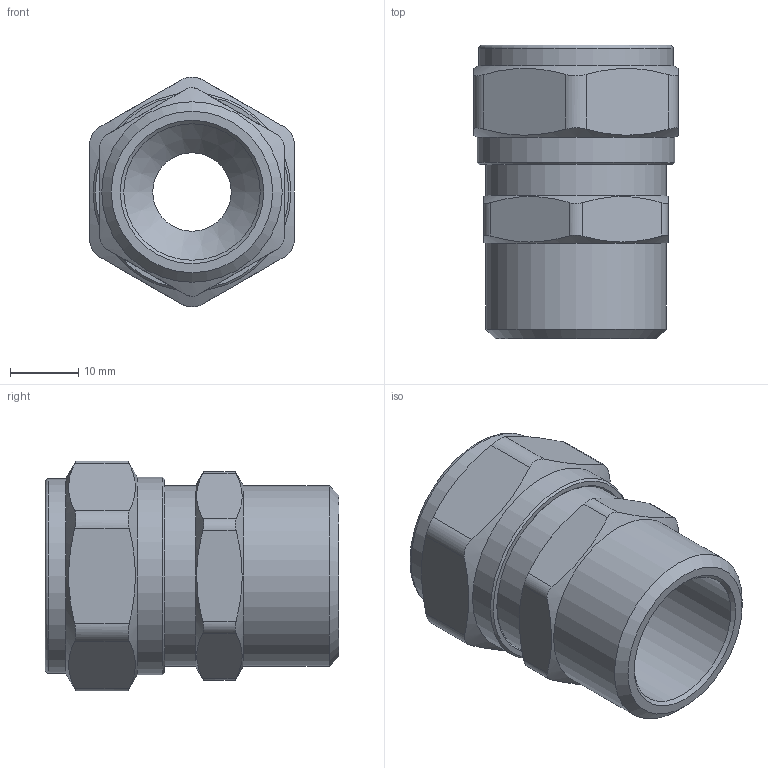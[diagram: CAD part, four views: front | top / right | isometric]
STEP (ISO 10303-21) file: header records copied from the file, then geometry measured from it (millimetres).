
FILE_DESCRIPTION(('STEP AP203'), '1');
FILE_NAME('VTm.301.N.002005', '', ('UNSPECIFIED'), ('UNSPECIFIED'), 'C3D Converter', 'C3D Toolkit', '');
FILE_SCHEMA(('CONFIG_CONTROL_DESIGN'));
Length unit declared in the file: millimetre
Products named in the file (1): ВР.302634.052.000 СБ
Bounding box: 30 x 43.03 x 33.7 mm (x, y, z)
Volume: 15309.2 mm3; surface area: 10873.4 mm2
Topology: 1 solids, 1 shells, 299 faces, 808 edges, 531 vertices
Faces by surface type: extrusion 117, plane 103, cylinder 37, torus 27, cone 15
Full cylindrical faces by diameter (mm): 11.5 x1, 15.8 x4, 15.9 x1, 20 x1, 20.1 x1, 20.2 x1, 20.7 x1, 24.118 x1, 26.441 x2, 28.5 x1, 29 x1
Entity records: 11479 total; most frequent: CARTESIAN_POINT 4684, ORIENTED_EDGE 1534, DIRECTION 1004, EDGE_CURVE 767, VERTEX_POINT 531, VECTOR 446, B_SPLINE_CURVE_WITH_KNOTS 439, EDGE_LOOP 364
